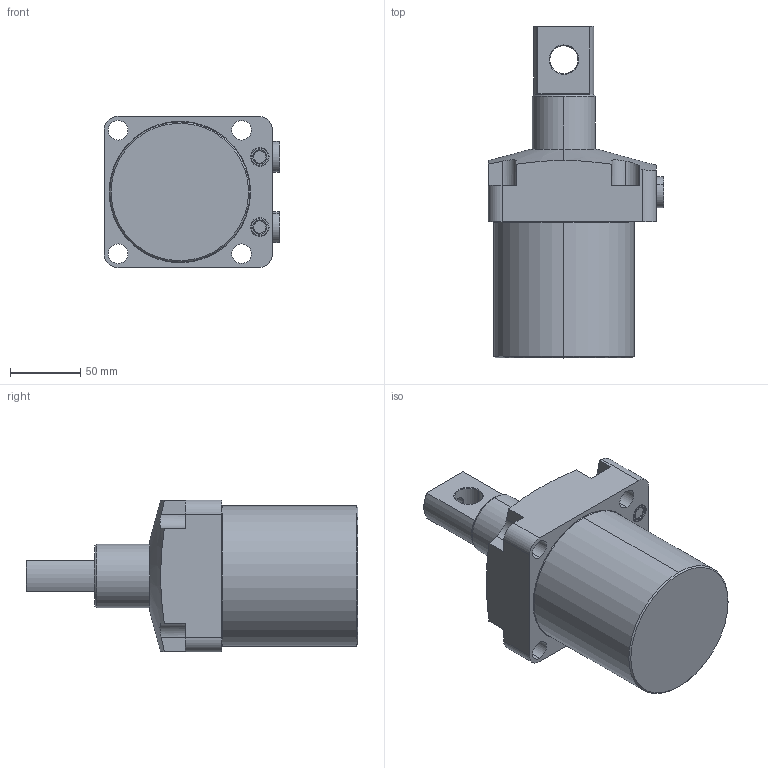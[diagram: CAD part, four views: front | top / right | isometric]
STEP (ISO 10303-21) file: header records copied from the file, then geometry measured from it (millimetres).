
FILE_DESCRIPTION(/* description */ (''),/* implementation_level */ '2;1');
FILE_NAME(/* name */ 'TRC25-P.stp',/* time_stamp */ '2025-01-04T09:19:32+08:00',/* author */ (''),/* organization */ (''),/* preprocessor_version */ 'ST-DEVELOPER v16.7',/* originating_system */ 'SIEMENS PLM Software NX 12.0',/* authorisation */ '');
FILE_SCHEMA (('AUTOMOTIVE_DESIGN { 1 0 10303 214 3 1 1 1 }'));
Length unit declared in the file: millimetre
Products named in the file (4): TRC25-P-03; TRC25-P-02; TRC25-P-01; TRC25-P_stp
Assembly tree (4 placements, depth 2):
  TRC25-P_stp
    TRC25-P-01
    TRC25-P-02
    TRC25-P-03  x2
Bounding box: 125.3 x 236.5 x 108 mm (x, y, z)
Volume: 1357706.2 mm3; surface area: 105624.5 mm2
Topology: 4 solids, 6 shells, 171 faces, 397 edges, 250 vertices
Faces by surface type: cylinder 67, plane 56, cone 26, torus 22
Entity records: 4607 total; most frequent: CARTESIAN_POINT 966, DIRECTION 797, ORIENTED_EDGE 702, EDGE_CURVE 351, AXIS2_PLACEMENT_3D 329, VERTEX_POINT 222, EDGE_LOOP 175, CIRCLE 175
